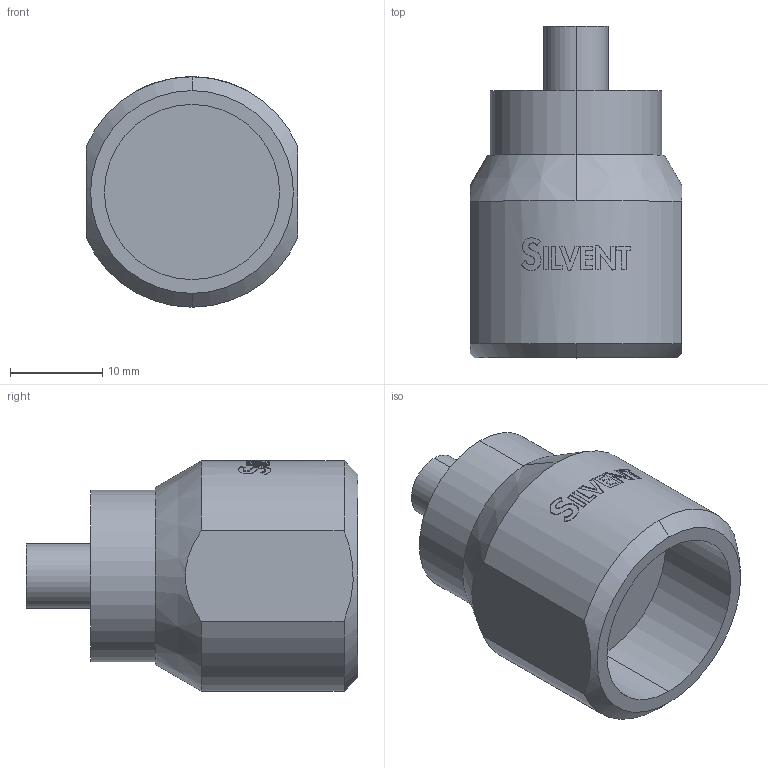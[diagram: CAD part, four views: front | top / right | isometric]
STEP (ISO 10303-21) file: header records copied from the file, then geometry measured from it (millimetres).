
FILE_DESCRIPTION (( 'STEP AP214' ), '1' );
FILE_NAME ('Silvent 707C.STEP', '2005-10-11T12:00:23', ( 'Peter Svensson' ), ( '' ), 'SwSTEP 2.0', 'SolidWorks 2004073', '' );
FILE_SCHEMA (( 'AUTOMOTIVE_DESIGN' ));
Length unit declared in the file: millimetre
Products named in the file (1): Silvent 707C
Bounding box: 23 x 36 x 25 mm (x, y, z)
Volume: 9307.2 mm3; surface area: 3594.8 mm2
Topology: 1 solids, 1 shells, 152 faces, 418 edges, 278 vertices
Faces by surface type: cylinder 93, plane 55, cone 4
Entity records: 6714 total; most frequent: CARTESIAN_POINT 1772, ORIENTED_EDGE 836, DIRECTION 568, EDGE_CURVE 418, VERTEX_POINT 278, AXIS2_PLACEMENT_3D 203, EDGE_LOOP 162, VECTOR 162
